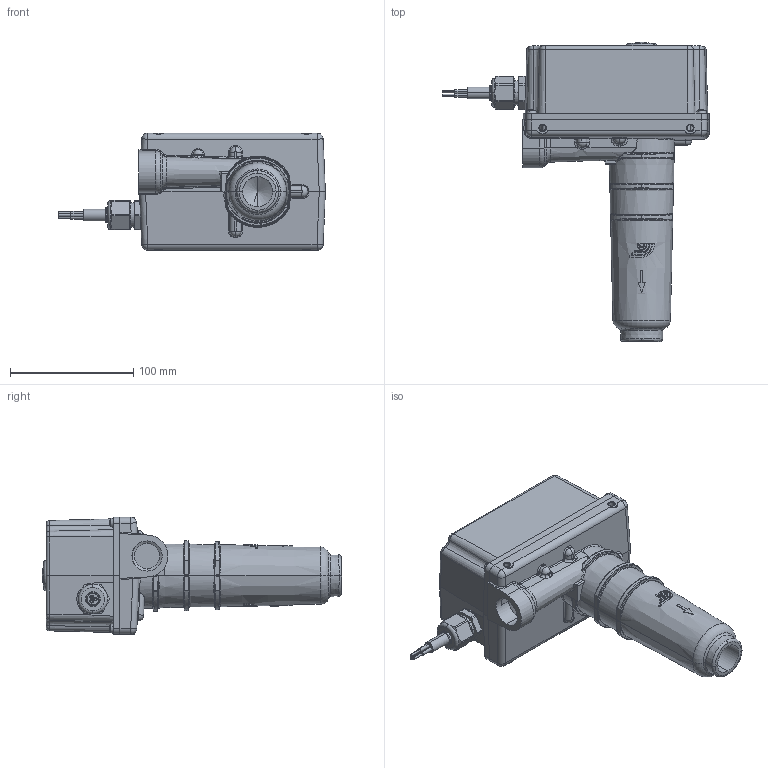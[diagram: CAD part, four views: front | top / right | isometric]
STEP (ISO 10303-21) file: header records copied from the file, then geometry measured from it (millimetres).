
FILE_DESCRIPTION (( 'STEP AP214' ), '1' );
FILE_NAME ('THG230140003550M.STEP', '2019-06-14T13:33:26', ( '' ), ( '' ), 'SwSTEP 2.0', 'SolidWorks 2018', '' );
FILE_SCHEMA (( 'AUTOMOTIVE_DESIGN' ));
Length unit declared in the file: millimetre
Products named in the file (7): CAPOT10_CST; CABLEROUL23-THG23014000-001; PRESSE ETOUPE18; BOUCHON02; CORPS燚E燙HAUFFE40_CST; THG230140003550M; VISSERIE26
Assembly tree (9 placements, depth 2):
  THG230140003550M
    CAPOT10_CST
    CORPS燚E燙HAUFFE40_CST
    PRESSE ETOUPE18
    VISSERIE26  x4
    CABLEROUL23-THG23014000-001
    BOUCHON02
Bounding box: 216.61 x 242.99 x 95.5 mm (x, y, z)
Volume: 1314189.7 mm3; surface area: 142331.3 mm2
Topology: 20 solids, 31 shells, 1076 faces, 2588 edges, 1573 vertices
Faces by surface type: cylinder 349, plane 281, bspline 167, cone 153, torus 74, sphere 52
Entity records: 39307 total; most frequent: CARTESIAN_POINT 16997, ORIENTED_EDGE 4628, DIRECTION 4404, EDGE_CURVE 2314, AXIS2_PLACEMENT_3D 1772, VERTEX_POINT 1433, EDGE_LOOP 1059, FACE_OUTER_BOUND 992
